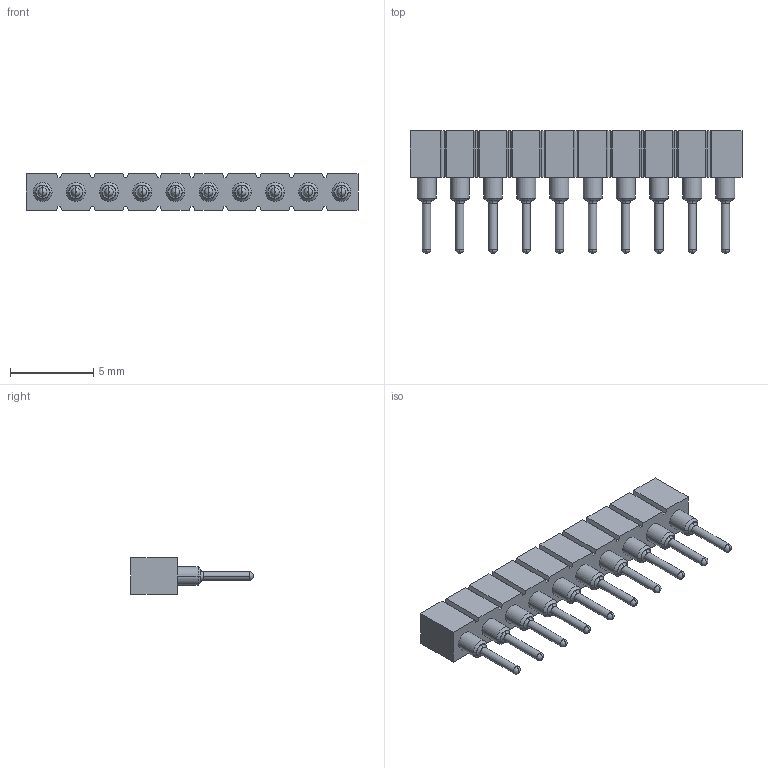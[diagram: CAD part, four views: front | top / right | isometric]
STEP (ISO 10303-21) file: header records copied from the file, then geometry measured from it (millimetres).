
FILE_DESCRIPTION(('STEP AP242'),'1');
FILE_NAME('pcb_connector_831-87-010-10-001101.stp','2018-11-26T20:45:54',('TraceParts'),('TraceParts S.A.'),'Spatial InterOp 3D',' ',' ');
FILE_SCHEMA(('AP242_MANAGED_MODEL_BASED_3D_ENGINEERING_MIM_LF {1 0 10303 442 1 1 4}'));
Length unit declared in the file: millimetre
Products named in the file (1): pcb_connector_831-87-010-10-001101
Bounding box: 20 x 7.37 x 2.2 mm (x, y, z)
Volume: 117.7 mm3; surface area: 509.8 mm2
Topology: 1 solids, 1 shells, 568 faces, 1358 edges, 822 vertices
Faces by surface type: cone 220, torus 120, plane 118, cylinder 110
Entity records: 21012 total; most frequent: DIRECTION 3266, CARTESIAN_POINT 2729, ORIENTED_EDGE 2676, AXIS2_PLACEMENT_3D 1359, EDGE_CURVE 1338, VERTEX_POINT 822, CIRCLE 790, EDGE_LOOP 618
